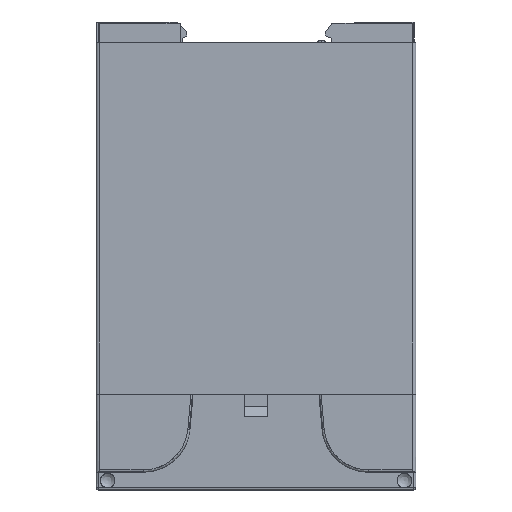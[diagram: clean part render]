
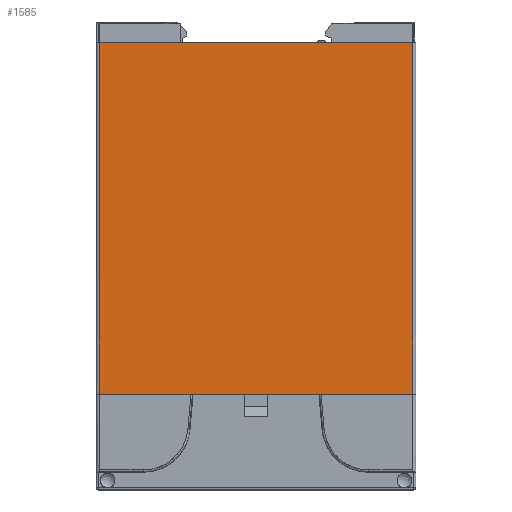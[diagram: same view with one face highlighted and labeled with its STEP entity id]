
A CAD part, left-side view. The second image highlights one B-rep face of the part: STEP entity #1585.
In plain terms, the highlighted free-form (B-spline) face has degree [1, 1] with [2, 2] control points.
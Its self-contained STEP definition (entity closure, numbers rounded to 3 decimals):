
#1585=ADVANCED_FACE('',(#2638),#11422,.T.);
#2638=FACE_OUTER_BOUND('',#3817,.T.);
#3817=EDGE_LOOP('',(#6045,#6046,#6047,#6048));
#6045=ORIENTED_EDGE('',*,*,#13235,.T.);
#6046=ORIENTED_EDGE('',*,*,#13236,.T.);
#6047=ORIENTED_EDGE('',*,*,#13237,.T.);
#6048=ORIENTED_EDGE('',*,*,#13238,.T.);
#11422=(
BOUNDED_SURFACE()
B_SPLINE_SURFACE(1,1,((#43653,#43654),(#43655,#43656)),.UNSPECIFIED.,.F.,
.F.,.F.)
B_SPLINE_SURFACE_WITH_KNOTS((2,2),(2,2),(-82.498,0.),(-73.498,0.),
.UNSPECIFIED.)
GEOMETRIC_REPRESENTATION_ITEM()
RATIONAL_B_SPLINE_SURFACE(((1.,1.),(1.,1.)))
REPRESENTATION_ITEM('')
SURFACE()
);
#13235=EDGE_CURVE('',#26144,#26141,#19688,.T.);
#13236=EDGE_CURVE('',#26141,#26142,#19689,.T.);
#13237=EDGE_CURVE('',#26142,#26143,#19690,.T.);
#13238=EDGE_CURVE('',#26143,#26144,#19691,.T.);
#19688=B_SPLINE_CURVE_WITH_KNOTS('',1,(#38482,#38483),.UNSPECIFIED.,.F.,
.F.,(2,2),(0.,1.),.UNSPECIFIED.);
#19689=B_SPLINE_CURVE_WITH_KNOTS('',1,(#38484,#38485),.UNSPECIFIED.,.F.,
.F.,(2,2),(0.,1.),.UNSPECIFIED.);
#19690=B_SPLINE_CURVE_WITH_KNOTS('',1,(#38486,#38487),.UNSPECIFIED.,.F.,
.F.,(2,2),(0.,1.),.UNSPECIFIED.);
#19691=B_SPLINE_CURVE_WITH_KNOTS('',1,(#38488,#38489),.UNSPECIFIED.,.F.,
.F.,(2,2),(0.,1.),.UNSPECIFIED.);
#26141=VERTEX_POINT('',#33480);
#26142=VERTEX_POINT('',#33481);
#26143=VERTEX_POINT('',#33482);
#26144=VERTEX_POINT('',#33483);
#33480=CARTESIAN_POINT('',(-22.499,36.749,0.));
#33481=CARTESIAN_POINT('',(-22.499,-36.749,0.));
#33482=CARTESIAN_POINT('',(-22.499,-36.749,82.498));
#33483=CARTESIAN_POINT('',(-22.499,36.749,82.498));
#38482=CARTESIAN_POINT('',(-22.499,36.749,82.498));
#38483=CARTESIAN_POINT('',(-22.499,36.749,0.));
#38484=CARTESIAN_POINT('',(-22.499,36.749,0.));
#38485=CARTESIAN_POINT('',(-22.499,-36.749,0.));
#38486=CARTESIAN_POINT('',(-22.499,-36.749,0.));
#38487=CARTESIAN_POINT('',(-22.499,-36.749,82.498));
#38488=CARTESIAN_POINT('',(-22.499,-36.749,82.498));
#38489=CARTESIAN_POINT('',(-22.499,36.749,82.498));
#43653=CARTESIAN_POINT('',(-22.499,-36.749,0.));
#43654=CARTESIAN_POINT('',(-22.499,36.749,0.));
#43655=CARTESIAN_POINT('',(-22.499,-36.749,82.498));
#43656=CARTESIAN_POINT('',(-22.499,36.749,82.498));
